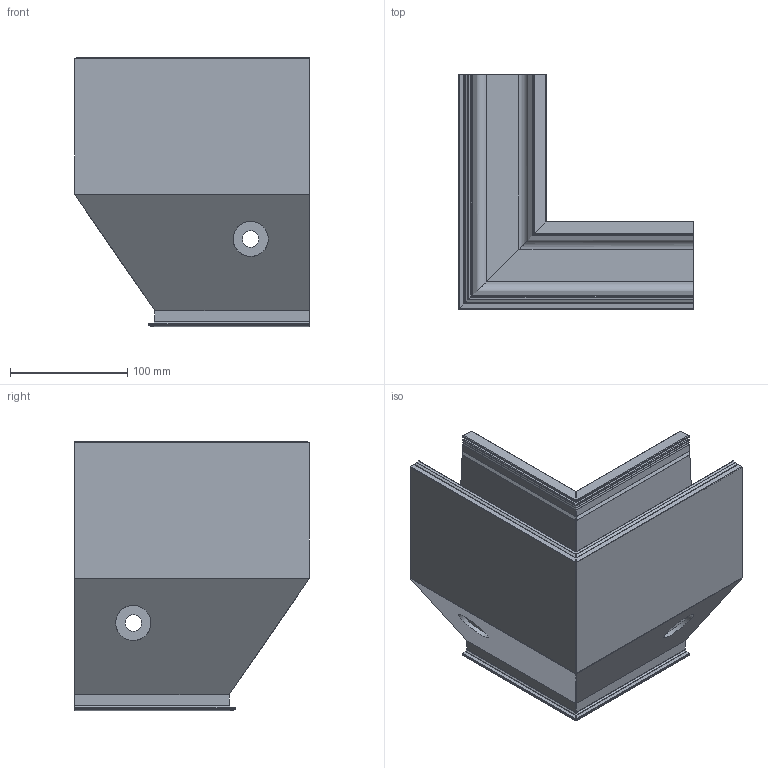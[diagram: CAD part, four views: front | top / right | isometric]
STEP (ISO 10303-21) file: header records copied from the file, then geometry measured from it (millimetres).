
FILE_DESCRIPTION(/* description */ ('TURBOFLEX TL-3621 outside corner aluminum mill finish'),/* implementation_level */ '2;1');
FILE_NAME(/* name */ '1036213501x.stp',/* time_stamp */ '2025-11-13T10:31:17+01:00',/* author */ ('nethmini'),/* organization */ (''),/* preprocessor_version */ 'ST-DEVELOPER v19.2',/* originating_system */ 'Autodesk Inventor 2024',/* authorisation */ '');
FILE_SCHEMA (('AUTOMOTIVE_DESIGN { 1 0 10303 214 3 1 1 }'));
Length unit declared in the file: millimetre
Products named in the file (3): 10362135010; 99362135110; 99362135210
Assembly tree (2 placements, depth 2):
  10362135010
    99362135110
    99362135210
Bounding box: 200 x 200 x 229.95 mm (x, y, z)
Volume: 1054748.3 mm3; surface area: 550848.9 mm2
Topology: 2 solids, 2 shells, 398 faces, 1182 edges, 788 vertices
Faces by surface type: cylinder 214, plane 184
Full cylindrical faces by diameter (mm): 14 x2, 30 x2
Entity records: 14098 total; most frequent: DIRECTION 2416, CARTESIAN_POINT 2373, ORIENTED_EDGE 2364, EDGE_CURVE 1182, AXIS2_PLACEMENT_3D 831, VERTEX_POINT 788, LINE 754, VECTOR 754
